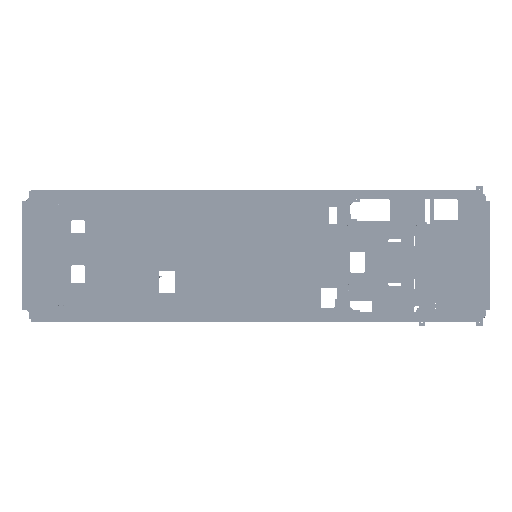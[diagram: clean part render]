
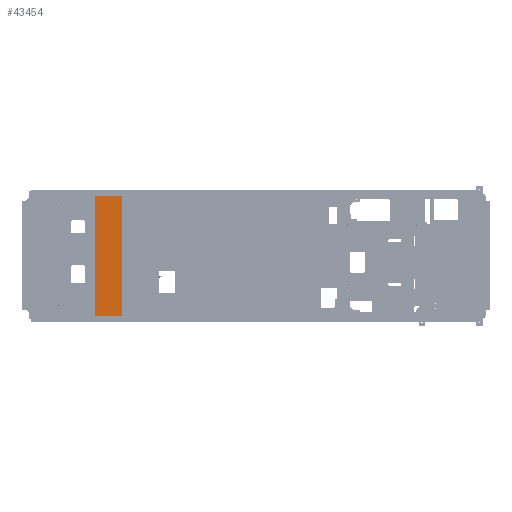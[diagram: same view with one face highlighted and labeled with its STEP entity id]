
A CAD part, top view. The second image highlights one B-rep face of the part: STEP entity #43454.
In plain terms, the highlighted planar face has unit normal (0, 0, 1).
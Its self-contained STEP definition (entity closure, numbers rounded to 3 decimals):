
#2385 = EDGE_CURVE ( 'NONE', #82650, #69364, #104761, .T. ) ;
#3098 = DIRECTION ( 'NONE',  ( 0., 0., 1. ) ) ;
#3391 = CARTESIAN_POINT ( 'NONE',  ( 4770.439, 802.614, 1.5 ) ) ;
#3845 = ORIENTED_EDGE ( 'NONE', *, *, #95783, .T. ) ;
#5056 = CARTESIAN_POINT ( 'NONE',  ( 4768.639, 802.614, 1.5 ) ) ;
#8692 = CARTESIAN_POINT ( 'NONE',  ( 4768.639, 142.614, 1.5 ) ) ;
#8943 = ORIENTED_EDGE ( 'NONE', *, *, #14760, .F. ) ;
#8980 = EDGE_LOOP ( 'NONE', ( #10764, #30744 ) ) ;
#9515 = CARTESIAN_POINT ( 'NONE',  ( 4770.439, 1207.614, 1.5 ) ) ;
#9827 = ORIENTED_EDGE ( 'NONE', *, *, #100851, .T. ) ;
#10187 = AXIS2_PLACEMENT_3D ( 'NONE', #17444, #128542, #88160 ) ;
#10311 = CIRCLE ( 'NONE', #89029, 1.8 ) ;
#10484 = DIRECTION ( 'NONE',  ( 1., 0., 0. ) ) ;
#10764 = ORIENTED_EDGE ( 'NONE', *, *, #106216, .F. ) ;
#12426 = VERTEX_POINT ( 'NONE', #27909 ) ;
#12429 = VERTEX_POINT ( 'NONE', #75138 ) ;
#12945 = AXIS2_PLACEMENT_3D ( 'NONE', #51289, #21246, #31471 ) ;
#14689 = AXIS2_PLACEMENT_3D ( 'NONE', #40872, #90826, #10484 ) ;
#14760 = EDGE_CURVE ( 'NONE', #69364, #82650, #60832, .T. ) ;
#14890 = AXIS2_PLACEMENT_3D ( 'NONE', #9515, #28962, #48775 ) ;
#17086 = FACE_BOUND ( 'NONE', #78007, .T. ) ;
#17444 = CARTESIAN_POINT ( 'NONE',  ( 4770.439, 142.614, 1.5 ) ) ;
#17750 = DIRECTION ( 'NONE',  ( 0., 0., 1. ) ) ;
#19474 = CIRCLE ( 'NONE', #126622, 1.8 ) ;
#21246 = DIRECTION ( 'NONE',  ( 0., 0., 1. ) ) ;
#23382 = CARTESIAN_POINT ( 'NONE',  ( 4905.943, 123.614, 1.5 ) ) ;
#23720 = CARTESIAN_POINT ( 'NONE',  ( 4662.538, 1223.614, 1.5 ) ) ;
#27583 = CARTESIAN_POINT ( 'NONE',  ( 4772.239, 1207.614, 1.5 ) ) ;
#27909 = CARTESIAN_POINT ( 'NONE',  ( 4768.639, 462.614, 1.5 ) ) ;
#28962 = DIRECTION ( 'NONE',  ( 0., 0., 1. ) ) ;
#30412 = CARTESIAN_POINT ( 'NONE',  ( 8393.46, 123.614, 1.5 ) ) ;
#30744 = ORIENTED_EDGE ( 'NONE', *, *, #68125, .F. ) ;
#31426 = DIRECTION ( 'NONE',  ( -1., 0., 0. ) ) ;
#31471 = DIRECTION ( 'NONE',  ( 1., 0., 0. ) ) ;
#31971 = AXIS2_PLACEMENT_3D ( 'NONE', #52068, #3098, #43688 ) ;
#32086 = AXIS2_PLACEMENT_3D ( 'NONE', #75969, #66296, #115643 ) ;
#32267 = CARTESIAN_POINT ( 'NONE',  ( 3871.177, 1223.614, 1.5 ) ) ;
#34519 = CARTESIAN_POINT ( 'NONE',  ( 4662.538, 0., 1.5 ) ) ;
#36821 = CIRCLE ( 'NONE', #87282, 1.8 ) ;
#39226 = DIRECTION ( 'NONE',  ( 1., 0., 0. ) ) ;
#39849 = EDGE_LOOP ( 'NONE', ( #51668, #8943 ) ) ;
#40872 = CARTESIAN_POINT ( 'NONE',  ( 4770.439, 1207.614, 1.5 ) ) ;
#43454 = ADVANCED_FACE ( 'NONE', ( #17086, #122803, #78712, #102244, #46916 ), #94020, .T. ) ;
#43688 = DIRECTION ( 'NONE',  ( 1., 0., 0. ) ) ;
#43815 = VERTEX_POINT ( 'NONE', #5056 ) ;
#43989 = DIRECTION ( 'NONE',  ( 0., 0., 1. ) ) ;
#44487 = VECTOR ( 'NONE', #39226, 1000. ) ;
#44666 = DIRECTION ( 'NONE',  ( 0., -1., 0. ) ) ;
#46916 = FACE_OUTER_BOUND ( 'NONE', #69772, .T. ) ;
#47391 = EDGE_CURVE ( 'NONE', #12429, #43815, #10311, .T. ) ;
#48775 = DIRECTION ( 'NONE',  ( 1., 0., 0. ) ) ;
#49003 = VERTEX_POINT ( 'NONE', #8692 ) ;
#49829 = CIRCLE ( 'NONE', #32086, 1.8 ) ;
#51289 = CARTESIAN_POINT ( 'NONE',  ( 4770.439, 802.614, 1.5 ) ) ;
#51668 = ORIENTED_EDGE ( 'NONE', *, *, #2385, .F. ) ;
#52068 = CARTESIAN_POINT ( 'NONE',  ( 0., 0., 1.5 ) ) ;
#54343 = DIRECTION ( 'NONE',  ( 0., 0., 1. ) ) ;
#56042 = CARTESIAN_POINT ( 'NONE',  ( 4772.239, 462.614, 1.5 ) ) ;
#60832 = CIRCLE ( 'NONE', #14689, 1.8 ) ;
#63405 = CARTESIAN_POINT ( 'NONE',  ( 4772.239, 142.614, 1.5 ) ) ;
#63809 = DIRECTION ( 'NONE',  ( 1., 0., 0. ) ) ;
#64003 = ORIENTED_EDGE ( 'NONE', *, *, #68652, .F. ) ;
#65412 = LINE ( 'NONE', #113017, #129939 ) ;
#66296 = DIRECTION ( 'NONE',  ( 0., 0., 1. ) ) ;
#66768 = CIRCLE ( 'NONE', #10187, 1.8 ) ;
#67370 = VERTEX_POINT ( 'NONE', #63405 ) ;
#67586 = ORIENTED_EDGE ( 'NONE', *, *, #75001, .F. ) ;
#67685 = DIRECTION ( 'NONE',  ( 1., 0., 0. ) ) ;
#68125 = EDGE_CURVE ( 'NONE', #12426, #121559, #19474, .T. ) ;
#68618 = ORIENTED_EDGE ( 'NONE', *, *, #121409, .F. ) ;
#68652 = EDGE_CURVE ( 'NONE', #49003, #67370, #66768, .T. ) ;
#69364 = VERTEX_POINT ( 'NONE', #79983 ) ;
#69585 = VERTEX_POINT ( 'NONE', #23382 ) ;
#69772 = EDGE_LOOP ( 'NONE', ( #3845, #112738, #108536, #9827 ) ) ;
#75001 = EDGE_CURVE ( 'NONE', #67370, #49003, #49829, .T. ) ;
#75138 = CARTESIAN_POINT ( 'NONE',  ( 4772.239, 802.614, 1.5 ) ) ;
#75969 = CARTESIAN_POINT ( 'NONE',  ( 4770.439, 142.614, 1.5 ) ) ;
#78007 = EDGE_LOOP ( 'NONE', ( #67586, #64003 ) ) ;
#78712 = FACE_BOUND ( 'NONE', #8980, .T. ) ;
#79983 = CARTESIAN_POINT ( 'NONE',  ( 4768.639, 1207.614, 1.5 ) ) ;
#82246 = DIRECTION ( 'NONE',  ( 0., 1., 0. ) ) ;
#82650 = VERTEX_POINT ( 'NONE', #27583 ) ;
#83311 = LINE ( 'NONE', #34519, #91164 ) ;
#85276 = DIRECTION ( 'NONE',  ( 1., 0., 0. ) ) ;
#87282 = AXIS2_PLACEMENT_3D ( 'NONE', #95028, #54343, #85276 ) ;
#87406 = EDGE_LOOP ( 'NONE', ( #89284, #68618 ) ) ;
#87615 = CARTESIAN_POINT ( 'NONE',  ( 4770.439, 462.614, 1.5 ) ) ;
#88160 = DIRECTION ( 'NONE',  ( 1., 0., 0. ) ) ;
#89029 = AXIS2_PLACEMENT_3D ( 'NONE', #3391, #43989, #63809 ) ;
#89284 = ORIENTED_EDGE ( 'NONE', *, *, #47391, .F. ) ;
#90826 = DIRECTION ( 'NONE',  ( 0., 0., 1. ) ) ;
#90998 = VERTEX_POINT ( 'NONE', #23720 ) ;
#91164 = VECTOR ( 'NONE', #44666, 1000. ) ;
#94020 = PLANE ( 'NONE',  #31971 ) ;
#95028 = CARTESIAN_POINT ( 'NONE',  ( 4770.439, 462.614, 1.5 ) ) ;
#95783 = EDGE_CURVE ( 'NONE', #110703, #90998, #96672, .T. ) ;
#96672 = LINE ( 'NONE', #32267, #128017 ) ;
#97596 = CARTESIAN_POINT ( 'NONE',  ( 4662.538, 123.614, 1.5 ) ) ;
#98161 = LINE ( 'NONE', #30412, #44487 ) ;
#100851 = EDGE_CURVE ( 'NONE', #69585, #110703, #65412, .T. ) ;
#102244 = FACE_BOUND ( 'NONE', #87406, .T. ) ;
#103848 = VERTEX_POINT ( 'NONE', #97596 ) ;
#104352 = EDGE_CURVE ( 'NONE', #90998, #103848, #83311, .T. ) ;
#104761 = CIRCLE ( 'NONE', #14890, 1.8 ) ;
#106216 = EDGE_CURVE ( 'NONE', #121559, #12426, #36821, .T. ) ;
#108536 = ORIENTED_EDGE ( 'NONE', *, *, #127765, .T. ) ;
#110703 = VERTEX_POINT ( 'NONE', #112342 ) ;
#112342 = CARTESIAN_POINT ( 'NONE',  ( 4905.943, 1223.614, 1.5 ) ) ;
#112738 = ORIENTED_EDGE ( 'NONE', *, *, #104352, .T. ) ;
#113017 = CARTESIAN_POINT ( 'NONE',  ( 4905.943, 0., 1.5 ) ) ;
#115643 = DIRECTION ( 'NONE',  ( 1., 0., 0. ) ) ;
#117560 = CIRCLE ( 'NONE', #12945, 1.8 ) ;
#121409 = EDGE_CURVE ( 'NONE', #43815, #12429, #117560, .T. ) ;
#121559 = VERTEX_POINT ( 'NONE', #56042 ) ;
#122803 = FACE_BOUND ( 'NONE', #39849, .T. ) ;
#126622 = AXIS2_PLACEMENT_3D ( 'NONE', #87615, #17750, #67685 ) ;
#127765 = EDGE_CURVE ( 'NONE', #103848, #69585, #98161, .T. ) ;
#128017 = VECTOR ( 'NONE', #31426, 1000. ) ;
#128542 = DIRECTION ( 'NONE',  ( 0., 0., 1. ) ) ;
#129939 = VECTOR ( 'NONE', #82246, 1000. ) ;
